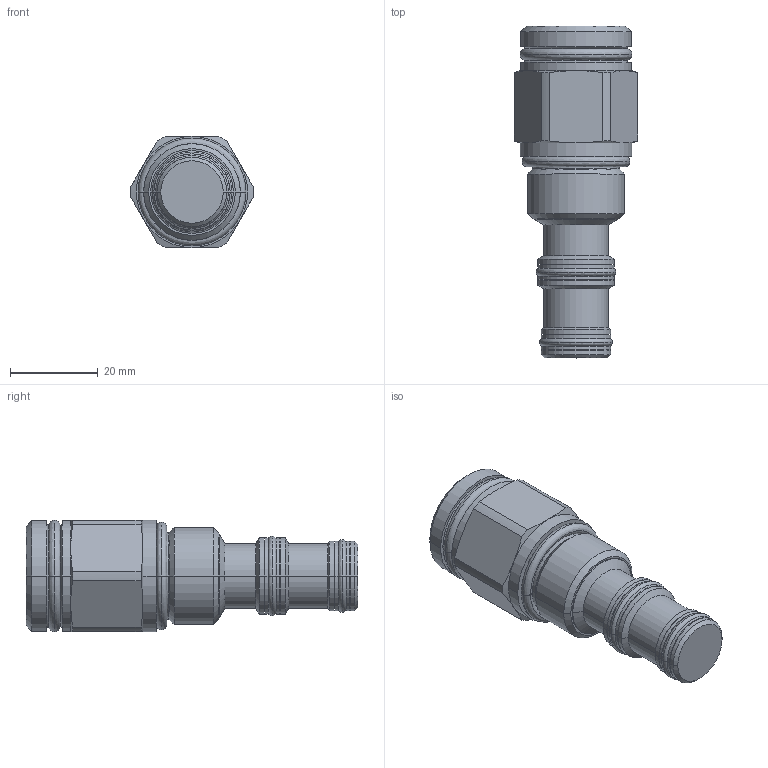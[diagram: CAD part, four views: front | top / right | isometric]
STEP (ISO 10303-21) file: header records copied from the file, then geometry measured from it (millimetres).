
FILE_DESCRIPTION((''),'2;1');
FILE_NAME('5261500_SW0002','2009-02-09T',('jcs'),(''),'PRO/ENGINEER BY PARAMETRIC TECHNOLOGY CORPORATION, 2008010','PRO/ENGINEER BY PARAMETRIC TECHNOLOGY CORPORATION, 2008010','');
FILE_SCHEMA(('CONFIG_CONTROL_DESIGN'));
Length unit declared in the file: inch
Products named in the file (1): 5261500_SW0002
Bounding box: 28.19 x 75.72 x 25.53 mm (x, y, z)
Volume: 27036.7 mm3; surface area: 9019.9 mm2
Topology: 9 solids, 9 shells, 148 faces, 308 edges, 178 vertices
Faces by surface type: cylinder 50, revolution 32, cone 28, plane 24, torus 14
Entity records: 4590 total; most frequent: CARTESIAN_POINT 1352, DIRECTION 702, ORIENTED_EDGE 616, EDGE_CURVE 308, AXIS2_PLACEMENT_3D 296, CIRCLE 180, VERTEX_POINT 178, EDGE_LOOP 164
